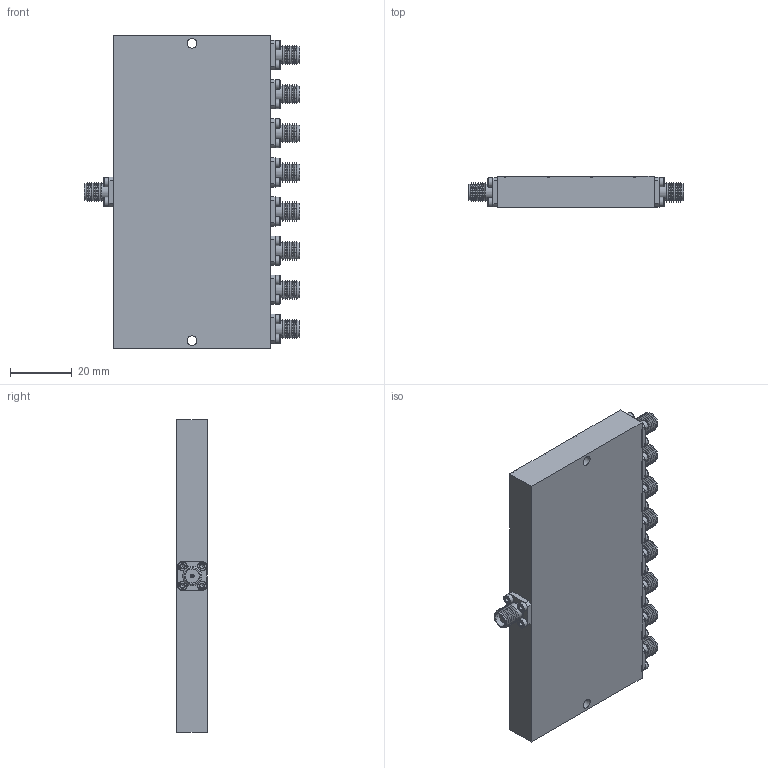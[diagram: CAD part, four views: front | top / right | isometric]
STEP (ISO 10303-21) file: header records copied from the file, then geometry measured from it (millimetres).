
FILE_DESCRIPTION(/* description */ ('Unknown'),/* implementation_level */ '2;1');
FILE_NAME(/* name */ 'DETI_MICROWAVE_8-WAY_POWER_DIVIDER_800277_STEP',/* time_stamp */ '2021-06-28T15:47:07+02:00',/* author */ ('ALG'),/* organization */ ('DETI'),/* preprocessor_version */ 'ST-DEVELOPER v16.7',/* originating_system */ 'Solid Edge',/* authorisation */ 'Unknown');
FILE_SCHEMA (('AUTOMOTIVE_DESIGN {1 0 10303 214 3 1 1}'));
Products named in the file (1): DI-8-12
Bounding box: 69.8 x 10 x 101.6 mm (x, y, z)
Volume: 54207.6 mm3; surface area: 20075 mm2
Topology: 1 solids, 114 shells, 2341 faces, 5916 edges, 3888 vertices
Faces by surface type: plane 1528, cylinder 358, cone 340, torus 115
Full cylindrical faces by diameter (mm): 0.47 x9, 1.1 x9, 1.221 x36, 1.27 x18, 1.6 x36, 1.8 x36, 2 x34, 2.2 x34, 3 x36, 3.2 x2, 3.8 x34, 4.1 x9, 4.6 x9, 5.3 x18
Entity records: 78615 total; most frequent: CARTESIAN_POINT 11106, DIRECTION 10240, ORIENTED_EDGE 9456, EDGE_CURVE 4728, VERTEX_POINT 3540, LINE 3452, VECTOR 3452, FACE_BOUND 3428
